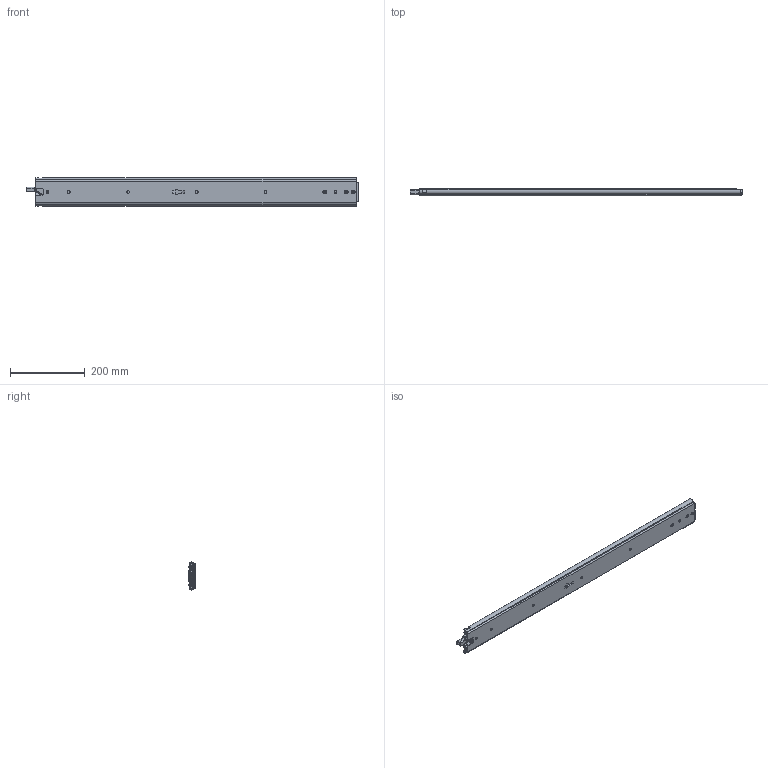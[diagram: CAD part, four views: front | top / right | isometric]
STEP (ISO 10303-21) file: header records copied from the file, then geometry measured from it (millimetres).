
FILE_DESCRIPTION((''),'2;1');
FILE_NAME('DG-76-3S-34YOU_ASM','2023-05-10T',('jishu015'),(''),'PRO/ENGINEER BY PARAMETRIC TECHNOLOGY CORPORATION, 2010280','PRO/ENGINEER BY PARAMETRIC TECHNOLOGY CORPORATION, 2010280','');
FILE_SCHEMA(('CONFIG_CONTROL_DESIGN'));
Products named in the file (29): KP-76-04WAIKE-1816________; 1076-WAIKEZIDANJIAO16________; WAIK16_________ASM; 1076XIAOZHUTIAO-22516________; 16________; 1076XIAOZHUTIAO-17516_________ASM; KP-76-04ZHONGGUI1816________; 76CHANGGUIZHONGGUIJIAO1622; 3X6WODIN16________; ZHONGGUIBAIKOU16________; PJ-76-30_______; PJ-76-03_______; 76-XIAOZHUJIA-11_______; GANGZHU-XIAO_______; ZHUJIA-XIAO________ASM; ZHONGGUI6_________ASM; KP-76-04NEIGUI1816________; PJ-76-31_______; DAOGPIAN16________; 1053-3SBANJ01_______; JIAO-11_______; 76XINSUOKOU_______; PJ-338_______; PJ-356_______; PJ-357_______; PJ-336_______; M4X4_______; NEIGUI16_________ASM; DG-76-3S-34YOU_ASM
Assembly tree (73 placements, depth 4):
  DG-76-3S-34YOU_ASM
    WAIK16_________ASM
      KP-76-04WAIKE-1816________
      1076-WAIKEZIDANJIAO16________  x2
    1076XIAOZHUTIAO-17516_________ASM  x2
      1076XIAOZHUTIAO-22516________
      16________
    ZHONGGUI6_________ASM
      KP-76-04ZHONGGUI1816________
      76CHANGGUIZHONGGUIJIAO1622
      3X6WODIN16________
      ZHONGGUIBAIKOU16________
      PJ-76-30_______
      PJ-76-03_______
      ZHUJIA-XIAO________ASM
        76-XIAOZHUJIA-11_______
        GANGZHU-XIAO_______  x30
    NEIGUI16_________ASM
      KP-76-04NEIGUI1816________
      PJ-76-31_______
      DAOGPIAN16________
      1053-3SBANJ01_______
      JIAO-11_______
      76XINSUOKOU_______
      PJ-338_______
      PJ-356_______
      PJ-357_______
      PJ-336_______
      M4X4_______
Bounding box: 889.52 x 20.6 x 75.3 mm (x, y, z)
Volume: 567980.6 mm3; surface area: 546284.2 mm2
Topology: 84 solids, 84 shells, 2152 faces, 6481 edges, 4108 vertices
Faces by surface type: plane 1107, cylinder 791, sphere 127, bspline 60, cone 28, extrusion 23, torus 16
Entity records: 70205 total; most frequent: CARTESIAN_POINT 18827, ORIENTED_EDGE 11186, DIRECTION 10216, EDGE_CURVE 5593, VERTEX_POINT 3644, AXIS2_PLACEMENT_3D 3514, VECTOR 3188, LINE 3165
